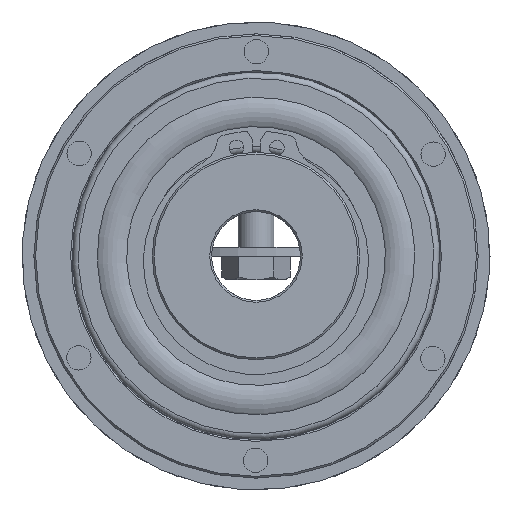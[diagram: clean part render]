
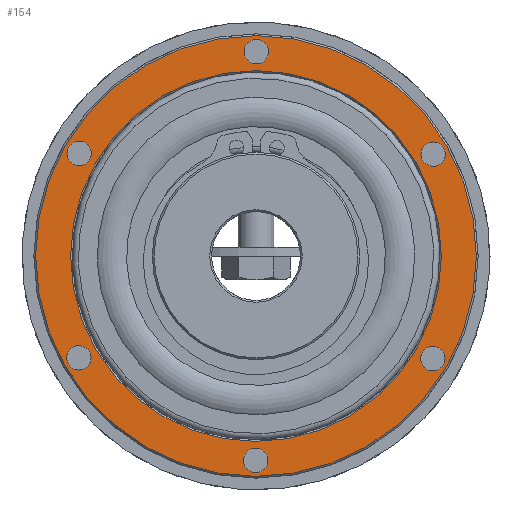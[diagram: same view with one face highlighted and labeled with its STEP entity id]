
A CAD part, left-side view. The second image highlights one B-rep face of the part: STEP entity #154.
In plain terms, the highlighted planar face has unit normal (-1, 0, 0).
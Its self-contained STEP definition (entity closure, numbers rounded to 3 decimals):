
#154 = ADVANCED_FACE( '', ( #272, #273, #274, #275, #276, #277, #278, #279 ), #280, .F. );
#272 = FACE_OUTER_BOUND( '', #438, .T. );
#273 = FACE_BOUND( '', #439, .T. );
#274 = FACE_BOUND( '', #440, .T. );
#275 = FACE_BOUND( '', #441, .T. );
#276 = FACE_BOUND( '', #442, .T. );
#277 = FACE_BOUND( '', #443, .T. );
#278 = FACE_BOUND( '', #444, .T. );
#279 = FACE_BOUND( '', #445, .T. );
#280 = PLANE( '', #446 );
#438 = EDGE_LOOP( '', ( #747 ) );
#439 = EDGE_LOOP( '', ( #748 ) );
#440 = EDGE_LOOP( '', ( #749 ) );
#441 = EDGE_LOOP( '', ( #750 ) );
#442 = EDGE_LOOP( '', ( #751 ) );
#443 = EDGE_LOOP( '', ( #752 ) );
#444 = EDGE_LOOP( '', ( #753 ) );
#445 = EDGE_LOOP( '', ( #754 ) );
#446 = AXIS2_PLACEMENT_3D( '', #755, #756, #757 );
#747 = ORIENTED_EDGE( '', *, *, #1309, .T. );
#748 = ORIENTED_EDGE( '', *, *, #1310, .T. );
#749 = ORIENTED_EDGE( '', *, *, #1311, .T. );
#750 = ORIENTED_EDGE( '', *, *, #1304, .T. );
#751 = ORIENTED_EDGE( '', *, *, #1312, .T. );
#752 = ORIENTED_EDGE( '', *, *, #1313, .T. );
#753 = ORIENTED_EDGE( '', *, *, #1314, .T. );
#754 = ORIENTED_EDGE( '', *, *, #1315, .T. );
#755 = CARTESIAN_POINT( '', ( -17.26, 37.5, 0. ) );
#756 = DIRECTION( '', ( 1., 0., 0. ) );
#757 = DIRECTION( '', ( 0., 1., 0. ) );
#1304 = EDGE_CURVE( '', #1789, #1789, #1790, .T. );
#1309 = EDGE_CURVE( '', #1797, #1797, #1798, .T. );
#1310 = EDGE_CURVE( '', #1799, #1799, #1800, .T. );
#1311 = EDGE_CURVE( '', #1801, #1801, #1802, .T. );
#1312 = EDGE_CURVE( '', #1803, #1803, #1804, .T. );
#1313 = EDGE_CURVE( '', #1805, #1805, #1806, .T. );
#1314 = EDGE_CURVE( '', #1807, #1807, #1808, .T. );
#1315 = EDGE_CURVE( '', #1809, #1809, #1810, .T. );
#1789 = VERTEX_POINT( '', #2808 );
#1790 = CIRCLE( '', #2809, 2.067 );
#1797 = VERTEX_POINT( '', #2816 );
#1798 = CIRCLE( '', #2817, 37.2 );
#1799 = VERTEX_POINT( '', #2818 );
#1800 = CIRCLE( '', #2819, 31.3 );
#1801 = VERTEX_POINT( '', #2820 );
#1802 = CIRCLE( '', #2821, 2.067 );
#1803 = VERTEX_POINT( '', #2822 );
#1804 = CIRCLE( '', #2823, 2.067 );
#1805 = VERTEX_POINT( '', #2824 );
#1806 = CIRCLE( '', #2825, 2.067 );
#1807 = VERTEX_POINT( '', #2826 );
#1808 = CIRCLE( '', #2827, 2.067 );
#1809 = VERTEX_POINT( '', #2828 );
#1810 = CIRCLE( '', #2829, 2.067 );
#2808 = CARTESIAN_POINT( '', ( -17.26, 31.668, -18.284 ) );
#2809 = AXIS2_PLACEMENT_3D( '', #3121, #3122, #3123 );
#2816 = CARTESIAN_POINT( '', ( -17.26, 0., -37.2 ) );
#2817 = AXIS2_PLACEMENT_3D( '', #3130, #3131, #3132 );
#2818 = CARTESIAN_POINT( '', ( -17.26, 0., -31.3 ) );
#2819 = AXIS2_PLACEMENT_3D( '', #3133, #3134, #3135 );
#2820 = CARTESIAN_POINT( '', ( -17.26, 31.668, 18.284 ) );
#2821 = AXIS2_PLACEMENT_3D( '', #3136, #3137, #3138 );
#2822 = CARTESIAN_POINT( '', ( -17.26, 0., -36.567 ) );
#2823 = AXIS2_PLACEMENT_3D( '', #3139, #3140, #3141 );
#2824 = CARTESIAN_POINT( '', ( -17.26, -31.668, -18.284 ) );
#2825 = AXIS2_PLACEMENT_3D( '', #3142, #3143, #3144 );
#2826 = CARTESIAN_POINT( '', ( -17.26, -31.668, 18.284 ) );
#2827 = AXIS2_PLACEMENT_3D( '', #3145, #3146, #3147 );
#2828 = CARTESIAN_POINT( '', ( -17.26, 0., 36.567 ) );
#2829 = AXIS2_PLACEMENT_3D( '', #3148, #3149, #3150 );
#3121 = CARTESIAN_POINT( '', ( -17.26, 29.878, -17.25 ) );
#3122 = DIRECTION( '', ( 1., 0., 0. ) );
#3123 = DIRECTION( '', ( 0., 0.866, -0.5 ) );
#3130 = CARTESIAN_POINT( '', ( -17.26, 0., 0. ) );
#3131 = DIRECTION( '', ( -1., 0., 0. ) );
#3132 = DIRECTION( '', ( 0., 0., -1. ) );
#3133 = CARTESIAN_POINT( '', ( -17.26, 0., 0. ) );
#3134 = DIRECTION( '', ( 1., 0., 0. ) );
#3135 = DIRECTION( '', ( 0., 0., -1. ) );
#3136 = CARTESIAN_POINT( '', ( -17.26, 29.878, 17.25 ) );
#3137 = DIRECTION( '', ( 1., 0., 0. ) );
#3138 = DIRECTION( '', ( 0., 0.866, 0.5 ) );
#3139 = CARTESIAN_POINT( '', ( -17.26, 0., -34.5 ) );
#3140 = DIRECTION( '', ( 1., 0., 0. ) );
#3141 = DIRECTION( '', ( 0., 0., -1. ) );
#3142 = CARTESIAN_POINT( '', ( -17.26, -29.878, -17.25 ) );
#3143 = DIRECTION( '', ( 1., 0., 0. ) );
#3144 = DIRECTION( '', ( 0., -0.866, -0.5 ) );
#3145 = CARTESIAN_POINT( '', ( -17.26, -29.878, 17.25 ) );
#3146 = DIRECTION( '', ( 1., 0., 0. ) );
#3147 = DIRECTION( '', ( 0., -0.866, 0.5 ) );
#3148 = CARTESIAN_POINT( '', ( -17.26, 0., 34.5 ) );
#3149 = DIRECTION( '', ( 1., 0., 0. ) );
#3150 = DIRECTION( '', ( 0., 0., 1. ) );
